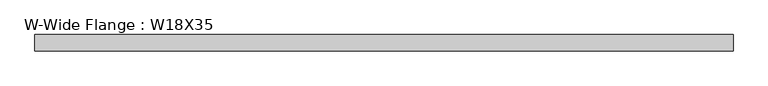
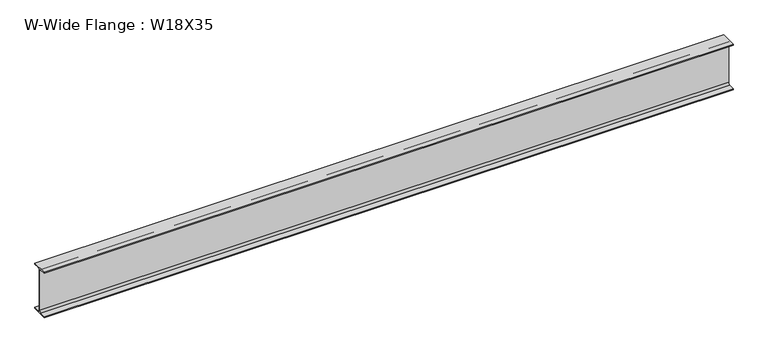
"""IFC4 building model written with IfcOpenShell, lengths in millimetres: beam geometry, W-Wide Flange : W18X35."""

from ifc_helpers import new_model, si_unit, point, frame, frame_2d, origin, place, context, project, spatial, polyline, circle_curve, trimmed, segment, composite_curve, outline, extrude, source, transform, mapped, element, save


def w_wide_flange_w18x35_15e55470(model_context):
    return source(origin(), model_context, "Body", "SweptSolid", [
        extrude(outline(composite_curve([segment(polyline([(-76.2, -213.995), (-21.59, -213.995)]), True, "CONTINUOUS"), segment(trimmed(circle_curve(frame_2d((-21.59, -196.215)), 17.78), [point((-21.59, -213.995))], [point((-3.81, -196.215))], True, "CARTESIAN"), True, "CONTINUOUS"), segment(polyline([(-3.81, -196.215), (-3.81, 196.215)]), True, "CONTINUOUS"), segment(trimmed(circle_curve(frame_2d((-21.59, 196.215)), 17.78), [point((-3.81, 196.215))], [point((-21.59, 213.995))], True, "CARTESIAN"), True, "CONTINUOUS"), segment(polyline([(-21.59, 213.995), (-76.2, 213.995), (-76.2, 224.79), (76.2, 224.79), (76.2, 213.995), (21.59, 213.995)]), True, "CONTINUOUS"), segment(trimmed(circle_curve(frame_2d((21.59, 196.215)), 17.78), [point((21.59, 213.995))], [point((3.81, 196.215))], True, "CARTESIAN"), True, "CONTINUOUS"), segment(polyline([(3.81, 196.215), (3.81, -196.215)]), True, "CONTINUOUS"), segment(trimmed(circle_curve(frame_2d((21.59, -196.215)), 17.78), [point((3.81, -196.215))], [point((21.59, -213.995))], True, "CARTESIAN"), True, "CONTINUOUS"), segment(polyline([(21.59, -213.995), (76.2, -213.995), (76.2, -224.79), (-76.2, -224.79), (-76.2, -213.995)]), True, "CONTINUOUS")], self_intersect=False)), frame((-3270.25, 0.0, 0.0), z_axis=(1.0, 0.0, 0.0), x_axis=(0.0, 1.0, 0.0)), (0.0, 0.0, 1.0), 6443.98),
    ])


if __name__ == "__main__":
    model = new_model("IFC4")
    model_context = context("Model", 3, world=origin())
    ifc_project = project(units=[si_unit("LENGTHUNIT", "METRE", prefix="MILLI")], contexts=[model_context])
    site = spatial("IfcSite", under=ifc_project)
    building = spatial("IfcBuilding", under=site)
    placement = place(None, origin())
    w_wide_flange_w18x35_shape = w_wide_flange_w18x35_15e55470(model_context)
    element("IfcBeam", 1, ObjectType="W-Wide Flange : W18X35", at=placement, inside=building, context=model_context, shape_type="MappedRepresentation", body=[
        mapped(w_wide_flange_w18x35_shape, transform((0.0, 0.0, 0.0), x_axis=(1.0, 0.0, 0.0), y_axis=(0.0, 1.0, 0.0), z_axis=(0.0, 0.0, 1.0))),
    ])
    save(model, "model.ifc")
